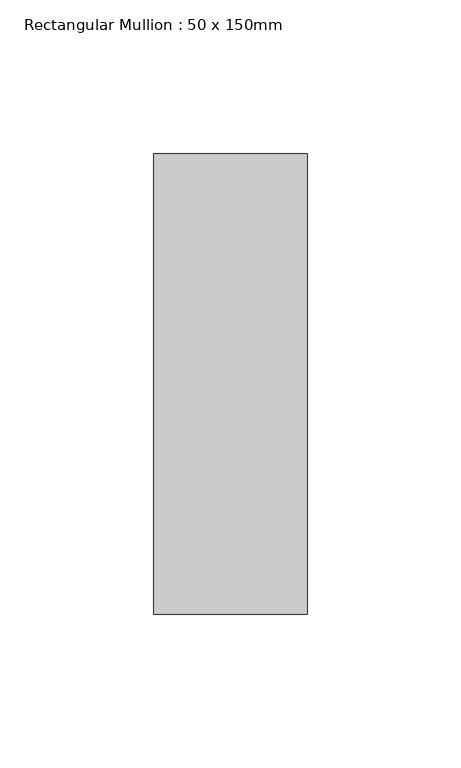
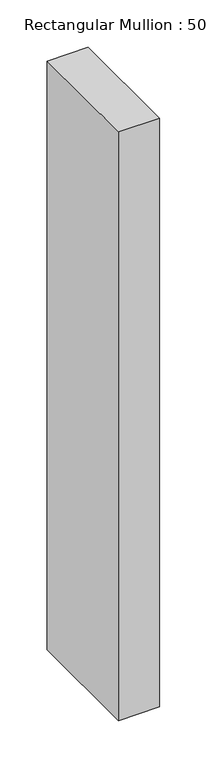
"""IFC4 building model written with IfcOpenShell, lengths in millimetres: member geometry, Rectangular Mullion : 50 x 150mm."""

from ifc_helpers import new_model, si_unit, frame, origin, place, context, project, spatial, polyline, outline, extrude, source, transform, mapped, element, save


def rectangular_mullion_50_x_150mm_8a1ff190(model_context):
    return source(origin(), model_context, "Body", "SweptSolid", [
        extrude(outline(polyline([(0.0, 75.0), (0.0, -75.0), (-50.0, -75.0), (-50.0, 75.0), (0.0, 75.0)])), frame((0.0, 0.0, -758.0), z_axis=(0.0, 0.0, 1.0), x_axis=(1.0, 0.0, 0.0)), (0.0, 0.0, 1.0), 758.0),
    ])


if __name__ == "__main__":
    model = new_model("IFC4")
    model_context = context("Model", 3, world=origin())
    ifc_project = project(units=[si_unit("LENGTHUNIT", "METRE", prefix="MILLI")], contexts=[model_context])
    site = spatial("IfcSite", under=ifc_project)
    building = spatial("IfcBuilding", under=site)
    placement = place(None, origin())
    rectangular_mullion_50_x_150mm_shape = rectangular_mullion_50_x_150mm_8a1ff190(model_context)
    element("IfcMember", 1, ObjectType="Rectangular Mullion : 50 x 150mm", at=placement, inside=building, context=model_context, shape_type="MappedRepresentation", body=[
        mapped(rectangular_mullion_50_x_150mm_shape, transform((0.0, 0.0, 0.0), x_axis=(1.0, 0.0, 0.0), y_axis=(0.0, 1.0, 0.0), z_axis=(0.0, 0.0, 1.0))),
    ])
    save(model, "model.ifc")
